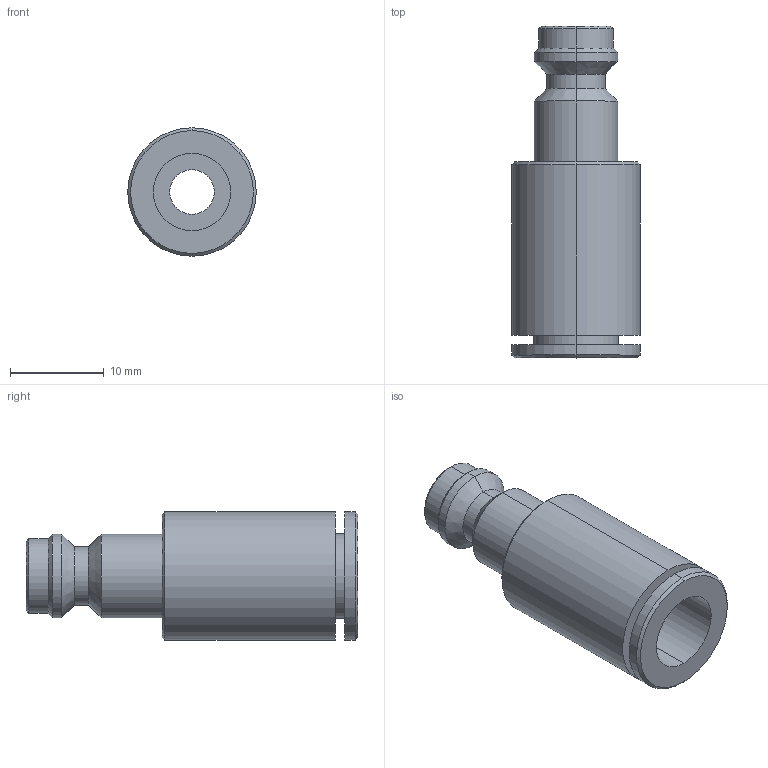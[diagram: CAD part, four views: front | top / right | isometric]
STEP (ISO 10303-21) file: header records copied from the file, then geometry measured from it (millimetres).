
FILE_DESCRIPTION (( 'STEP AP214' ), '1' );
FILE_NAME ('TZA-PK.STEP', '2022-04-26T15:56:56', ( '' ), ( '' ), 'SwSTEP 2.0', 'SolidWorks 2022', '' );
FILE_SCHEMA (( 'AUTOMOTIVE_DESIGN' ));
Length unit declared in the file: millimetre
Products named in the file (1): TZA-PK
Bounding box: 13.7 x 35.4 x 13.7 mm (x, y, z)
Volume: 2520.5 mm3; surface area: 2404.9 mm2
Topology: 1 solids, 1 shells, 36 faces, 72 edges, 42 vertices
Faces by surface type: cylinder 18, cone 12, plane 6
Entity records: 1368 total; most frequent: DIRECTION 188, CARTESIAN_POINT 151, ORIENTED_EDGE 144, AXIS2_PLACEMENT_3D 79, EDGE_CURVE 72, CIRCLE 42, EDGE_LOOP 42, VERTEX_POINT 42
